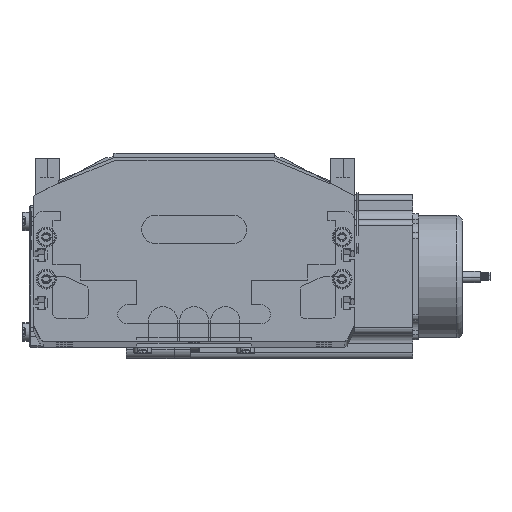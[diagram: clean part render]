
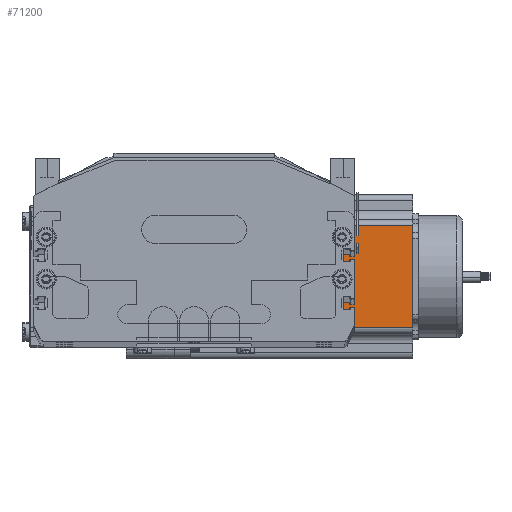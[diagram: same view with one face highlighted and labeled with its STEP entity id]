
A CAD part, top view. The second image highlights one B-rep face of the part: STEP entity #71200.
In plain terms, the highlighted planar face has unit normal (0, 0, 1) as drawn and (0, -1, 0) by its records, which use the part's own axes.
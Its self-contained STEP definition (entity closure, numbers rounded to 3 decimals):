
#31609 = DIRECTION ( 'NONE',  ( 1., 0., 0. ) ) ;
#31611 = VECTOR ( 'NONE', #31609, 1000. ) ;
#31612 = CARTESIAN_POINT ( 'NONE',  ( 0., 0., 116.5 ) ) ;
#31613 = CARTESIAN_POINT ( 'NONE',  ( 16.16, 0., 116.5 ) ) ;
#31619 = CARTESIAN_POINT ( 'NONE',  ( 16.16, 0., 0. ) ) ;
#31632 = LINE ( 'NONE', #31612, #31611 ) ;
#31659 = DIRECTION ( 'NONE',  ( 0., 0., -1. ) ) ;
#31660 = VECTOR ( 'NONE', #31659, 1000. ) ;
#31661 = CARTESIAN_POINT ( 'NONE',  ( 16.16, 0., 116.5 ) ) ;
#31667 = LINE ( 'NONE', #31661, #31660 ) ;
#31914 = DIRECTION ( 'NONE',  ( 0., 0., 1. ) ) ;
#31915 = VECTOR ( 'NONE', #31914, 1000. ) ;
#31917 = CARTESIAN_POINT ( 'NONE',  ( 69.74, 0., 116.5 ) ) ;
#31919 = LINE ( 'NONE', #31917, #31915 ) ;
#32003 = CARTESIAN_POINT ( 'NONE',  ( 69.74, 0., 116.5 ) ) ;
#32091 = DIRECTION ( 'NONE',  ( 1., 0., 0. ) ) ;
#32093 = VECTOR ( 'NONE', #32091, 1000. ) ;
#32095 = CARTESIAN_POINT ( 'NONE',  ( 0., 0., 0. ) ) ;
#32097 = LINE ( 'NONE', #32095, #32093 ) ;
#32121 = CARTESIAN_POINT ( 'NONE',  ( 69.74, 0., 0. ) ) ;
#32384 = DIRECTION ( 'NONE',  ( 0., 0., 1. ) ) ;
#32385 = DIRECTION ( 'NONE',  ( 0., 1., 0. ) ) ;
#32386 = CARTESIAN_POINT ( 'NONE',  ( 0., 0., 116.5 ) ) ;
#32585 = PLANE ( 'NONE',  #32591 ) ;
#32591 = AXIS2_PLACEMENT_3D ( 'NONE', #32386, #32385, #32384 ) ;
#32594 = FACE_OUTER_BOUND ( 'NONE', #71198, .T. ) ;
#70585 = ORIENTED_EDGE ( 'NONE', *, *, #71050, .T. ) ;
#70993 = EDGE_CURVE ( 'NONE', #71004, #71006, #31667, .T. ) ;
#71002 = ORIENTED_EDGE ( 'NONE', *, *, #71119, .T. ) ;
#71003 = EDGE_CURVE ( 'NONE', #71004, #71048, #31632, .T. ) ;
#71004 = VERTEX_POINT ( 'NONE', #31613 ) ;
#71006 = VERTEX_POINT ( 'NONE', #31619 ) ;
#71025 = ORIENTED_EDGE ( 'NONE', *, *, #71003, .F. ) ;
#71047 = VERTEX_POINT ( 'NONE', #32121 ) ;
#71048 = VERTEX_POINT ( 'NONE', #32003 ) ;
#71050 = EDGE_CURVE ( 'NONE', #71006, #71047, #32097, .T. ) ;
#71051 = ORIENTED_EDGE ( 'NONE', *, *, #70993, .T. ) ;
#71119 = EDGE_CURVE ( 'NONE', #71047, #71048, #31919, .T. ) ;
#71198 = EDGE_LOOP ( 'NONE', ( #70585, #71002, #71025, #71051 ) ) ;
#71200 = ADVANCED_FACE ( 'NONE', ( #32594 ), #32585, .F. ) ;
